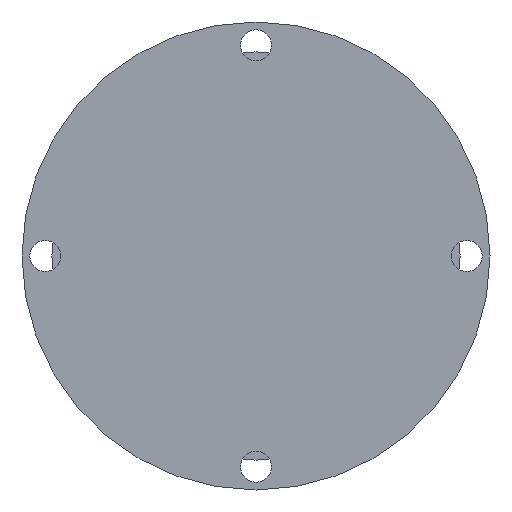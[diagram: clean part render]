
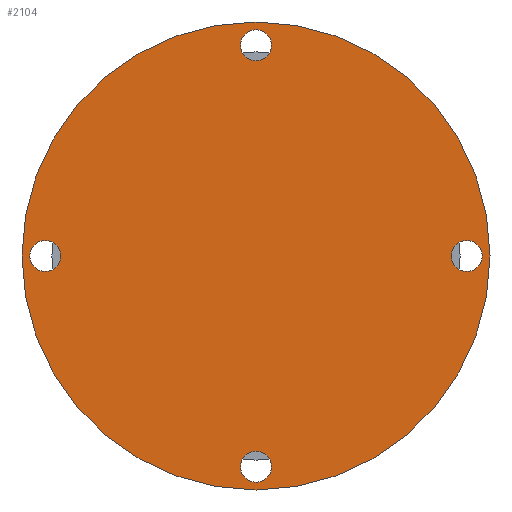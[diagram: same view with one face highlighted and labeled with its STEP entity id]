
A CAD part, front view. The second image highlights one B-rep face of the part: STEP entity #2104.
In plain terms, the highlighted planar face has unit normal (0, -1, 0).
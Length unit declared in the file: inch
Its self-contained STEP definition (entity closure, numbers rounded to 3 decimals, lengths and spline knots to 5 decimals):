
#371 = DIRECTION ( 'NONE',  ( 0., 0., -1. ) ) ;
#482 = CARTESIAN_POINT ( 'NONE',  ( 1.125, 0., 0.083 ) ) ;
#534 = CIRCLE ( 'NONE', #7313, 0.083 ) ;
#1078 = FACE_BOUND ( 'NONE', #6588, .T. ) ;
#1094 = DIRECTION ( 'NONE',  ( 0., 0., -1. ) ) ;
#1169 = CARTESIAN_POINT ( 'NONE',  ( -1.125, 0., -0.083 ) ) ;
#1206 = CARTESIAN_POINT ( 'NONE',  ( 1.125, 0., 0. ) ) ;
#1429 = VERTEX_POINT ( 'NONE', #482 ) ;
#1547 = CARTESIAN_POINT ( 'NONE',  ( -1.125, 0., 0.083 ) ) ;
#1629 = DIRECTION ( 'NONE',  ( 0., 1., 0. ) ) ;
#1671 = CARTESIAN_POINT ( 'NONE',  ( 0., 0., -1.125 ) ) ;
#1733 = ORIENTED_EDGE ( 'NONE', *, *, #9090, .T. ) ;
#1772 = DIRECTION ( 'NONE',  ( 0., 0., -1. ) ) ;
#1863 = AXIS2_PLACEMENT_3D ( 'NONE', #2924, #6162, #7750 ) ;
#1903 = DIRECTION ( 'NONE',  ( 0., 0., 1. ) ) ;
#1980 = ORIENTED_EDGE ( 'NONE', *, *, #9270, .T. ) ;
#1988 = CARTESIAN_POINT ( 'NONE',  ( 0., 0., 0. ) ) ;
#2015 = DIRECTION ( 'NONE',  ( 0., 0., -1. ) ) ;
#2042 = CARTESIAN_POINT ( 'NONE',  ( 0., 0., 0. ) ) ;
#2104 = ADVANCED_FACE ( 'NONE', ( #5775, #7412, #7905, #2312, #1078 ), #8483, .T. ) ;
#2312 = FACE_BOUND ( 'NONE', #9505, .T. ) ;
#2405 = DIRECTION ( 'NONE',  ( 0., 0., -1. ) ) ;
#2537 = ORIENTED_EDGE ( 'NONE', *, *, #6944, .T. ) ;
#2704 = EDGE_CURVE ( 'NONE', #4467, #7906, #9935, .T. ) ;
#2886 = VERTEX_POINT ( 'NONE', #1169 ) ;
#2924 = CARTESIAN_POINT ( 'NONE',  ( 1.125, 0., 0. ) ) ;
#2956 = CARTESIAN_POINT ( 'NONE',  ( 1.125, 0., -0.083 ) ) ;
#3378 = AXIS2_PLACEMENT_3D ( 'NONE', #4951, #1629, #5811 ) ;
#3521 = ORIENTED_EDGE ( 'NONE', *, *, #10144, .T. ) ;
#3563 = DIRECTION ( 'NONE',  ( 0., -1., 0. ) ) ;
#3732 = CIRCLE ( 'NONE', #1863, 0.083 ) ;
#3912 = ORIENTED_EDGE ( 'NONE', *, *, #5234, .T. ) ;
#4230 = DIRECTION ( 'NONE',  ( 0., 1., 0. ) ) ;
#4341 = CARTESIAN_POINT ( 'NONE',  ( 0., 0., -1.208 ) ) ;
#4429 = CIRCLE ( 'NONE', #8769, 0.083 ) ;
#4441 = ORIENTED_EDGE ( 'NONE', *, *, #2704, .F. ) ;
#4467 = VERTEX_POINT ( 'NONE', #8733 ) ;
#4632 = CARTESIAN_POINT ( 'NONE',  ( -1.125, 0., 0. ) ) ;
#4745 = CIRCLE ( 'NONE', #7467, 1.2495 ) ;
#4777 = AXIS2_PLACEMENT_3D ( 'NONE', #1671, #9944, #1772 ) ;
#4783 = DIRECTION ( 'NONE',  ( 0., 1., 0. ) ) ;
#4802 = AXIS2_PLACEMENT_3D ( 'NONE', #4632, #5495, #8785 ) ;
#4951 = CARTESIAN_POINT ( 'NONE',  ( 0., 0., 0. ) ) ;
#5209 = ORIENTED_EDGE ( 'NONE', *, *, #10247, .F. ) ;
#5234 = EDGE_CURVE ( 'NONE', #7003, #8382, #4429, .T. ) ;
#5241 = CARTESIAN_POINT ( 'NONE',  ( 0., 0., 1.042 ) ) ;
#5333 = ORIENTED_EDGE ( 'NONE', *, *, #9754, .T. ) ;
#5364 = CARTESIAN_POINT ( 'NONE',  ( 0., 0., -1.125 ) ) ;
#5495 = DIRECTION ( 'NONE',  ( 0., 1., 0. ) ) ;
#5775 = FACE_OUTER_BOUND ( 'NONE', #6399, .T. ) ;
#5811 = DIRECTION ( 'NONE',  ( 0., 0., 1. ) ) ;
#5853 = AXIS2_PLACEMENT_3D ( 'NONE', #8197, #4230, #7530 ) ;
#6125 = DIRECTION ( 'NONE',  ( 0., 1., 0. ) ) ;
#6162 = DIRECTION ( 'NONE',  ( 0., 1., 0. ) ) ;
#6367 = CARTESIAN_POINT ( 'NONE',  ( 0., 0., 1.125 ) ) ;
#6399 = EDGE_LOOP ( 'NONE', ( #5209, #4441 ) ) ;
#6564 = VERTEX_POINT ( 'NONE', #2956 ) ;
#6578 = CIRCLE ( 'NONE', #8258, 0.083 ) ;
#6588 = EDGE_LOOP ( 'NONE', ( #3521, #3912 ) ) ;
#6733 = ORIENTED_EDGE ( 'NONE', *, *, #7971, .T. ) ;
#6833 = DIRECTION ( 'NONE',  ( 0., 1., 0. ) ) ;
#6940 = CIRCLE ( 'NONE', #4802, 0.083 ) ;
#6944 = EDGE_CURVE ( 'NONE', #7103, #8119, #7559, .T. ) ;
#7003 = VERTEX_POINT ( 'NONE', #9852 ) ;
#7103 = VERTEX_POINT ( 'NONE', #4341 ) ;
#7192 = AXIS2_PLACEMENT_3D ( 'NONE', #1206, #10092, #371 ) ;
#7211 = CARTESIAN_POINT ( 'NONE',  ( 0., 0., 1.2495 ) ) ;
#7313 = AXIS2_PLACEMENT_3D ( 'NONE', #9656, #4783, #2405 ) ;
#7412 = FACE_BOUND ( 'NONE', #9634, .T. ) ;
#7414 = CARTESIAN_POINT ( 'NONE',  ( 0., 0., -1.042 ) ) ;
#7467 = AXIS2_PLACEMENT_3D ( 'NONE', #2042, #6833, #1903 ) ;
#7530 = DIRECTION ( 'NONE',  ( 0., 0., -1. ) ) ;
#7559 = CIRCLE ( 'NONE', #4777, 0.083 ) ;
#7572 = CIRCLE ( 'NONE', #7192, 0.083 ) ;
#7750 = DIRECTION ( 'NONE',  ( 0., 0., -1. ) ) ;
#7905 = FACE_BOUND ( 'NONE', #8967, .T. ) ;
#7906 = VERTEX_POINT ( 'NONE', #7211 ) ;
#7971 = EDGE_CURVE ( 'NONE', #2886, #8587, #534, .T. ) ;
#8119 = VERTEX_POINT ( 'NONE', #7414 ) ;
#8197 = CARTESIAN_POINT ( 'NONE',  ( 0., 0., 1.125 ) ) ;
#8258 = AXIS2_PLACEMENT_3D ( 'NONE', #5364, #6125, #2015 ) ;
#8382 = VERTEX_POINT ( 'NONE', #5241 ) ;
#8483 = PLANE ( 'NONE',  #10148 ) ;
#8587 = VERTEX_POINT ( 'NONE', #1547 ) ;
#8733 = CARTESIAN_POINT ( 'NONE',  ( 0., 0., -1.2495 ) ) ;
#8769 = AXIS2_PLACEMENT_3D ( 'NONE', #6367, #8897, #9687 ) ;
#8785 = DIRECTION ( 'NONE',  ( 0., 0., -1. ) ) ;
#8897 = DIRECTION ( 'NONE',  ( 0., 1., 0. ) ) ;
#8951 = EDGE_CURVE ( 'NONE', #8119, #7103, #6578, .T. ) ;
#8967 = EDGE_LOOP ( 'NONE', ( #2537, #9949 ) ) ;
#9090 = EDGE_CURVE ( 'NONE', #8587, #2886, #6940, .T. ) ;
#9270 = EDGE_CURVE ( 'NONE', #6564, #1429, #7572, .T. ) ;
#9325 = CIRCLE ( 'NONE', #5853, 0.083 ) ;
#9505 = EDGE_LOOP ( 'NONE', ( #1980, #5333 ) ) ;
#9634 = EDGE_LOOP ( 'NONE', ( #6733, #1733 ) ) ;
#9656 = CARTESIAN_POINT ( 'NONE',  ( -1.125, 0., 0. ) ) ;
#9687 = DIRECTION ( 'NONE',  ( 0., 0., -1. ) ) ;
#9754 = EDGE_CURVE ( 'NONE', #1429, #6564, #3732, .T. ) ;
#9852 = CARTESIAN_POINT ( 'NONE',  ( 0., 0., 1.208 ) ) ;
#9935 = CIRCLE ( 'NONE', #3378, 1.2495 ) ;
#9944 = DIRECTION ( 'NONE',  ( 0., 1., 0. ) ) ;
#9949 = ORIENTED_EDGE ( 'NONE', *, *, #8951, .T. ) ;
#10092 = DIRECTION ( 'NONE',  ( 0., 1., 0. ) ) ;
#10144 = EDGE_CURVE ( 'NONE', #8382, #7003, #9325, .T. ) ;
#10148 = AXIS2_PLACEMENT_3D ( 'NONE', #1988, #3563, #1094 ) ;
#10247 = EDGE_CURVE ( 'NONE', #7906, #4467, #4745, .T. ) ;
